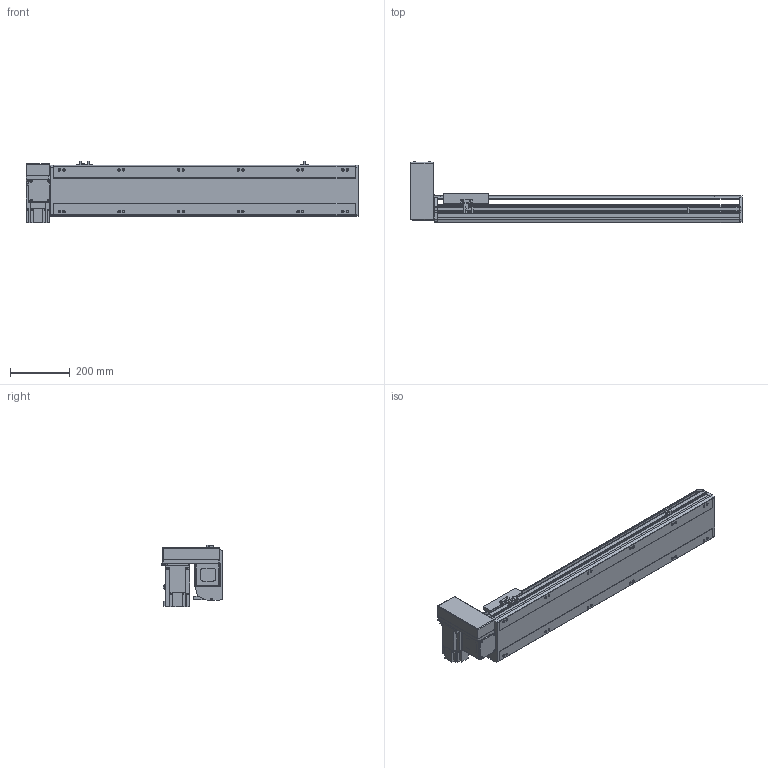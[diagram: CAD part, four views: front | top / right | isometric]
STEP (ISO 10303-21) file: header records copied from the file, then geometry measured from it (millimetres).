
FILE_DESCRIPTION( ( 'STEP AP214' ), '1' );
FILE_NAME( 'x:/temp/worker_5/temp/exporttempdir_3988_115_ULBPK/format_0/PBS170-P40-S750-RU-T75-C1-N(0).stp', '2022-06-08T05:56:31', ( 'License CC BY-ND 4.0' ), ( 'CADENAS' ), ' ', 'PARTsolutions', ' ' );
FILE_SCHEMA( ( 'AUTOMOTIVE_DESIGN { 1 0 10303 214 1 1 1 1 }' ) );
Length unit declared in the file: millimetre
Products named in the file (7): PBS170-P40-S750-RU-T75-C1-N(0); _PBS170-S750()_body; _PBS170T-RU_motors; _T75-p1; _PBS170_sliser; _PBS170_plant; _PBS170_sensor
Assembly tree (8 placements, depth 2):
  PBS170-P40-S750-RU-T75-C1-N(0)
    _PBS170-S750()_body
    _PBS170T-RU_motors
    _T75-p1
    _PBS170_sliser
    _PBS170_plant
    _PBS170_sensor  x3
Bounding box: 1113 x 206 x 205.3 mm (x, y, z)
Volume: 9209679.8 mm3; surface area: 1225028 mm2
Topology: 8 solids, 8 shells, 1050 faces, 2795 edges, 1822 vertices
Faces by surface type: plane 675, cylinder 323, cone 42, sphere 8, torus 2
Full cylindrical faces by diameter (mm): 3.242 x4, 4 x2, 4.4 x4, 4.5 x6, 4.917 x4, 6 x9, 6.647 x20, 7 x2, 7.5 x4, 8 x8, 8.5 x12, 10 x4, 10.5 x12, 11 x2, 30 x2, 40 x1, 70 x1
Entity records: 38456 total; most frequent: CARTESIAN_POINT 5885, DIRECTION 5160, ORIENTED_EDGE 4908, EDGE_CURVE 2454, AXIS2_PLACEMENT_3D 1777, VERTEX_POINT 1682, LINE 1606, VECTOR 1606
